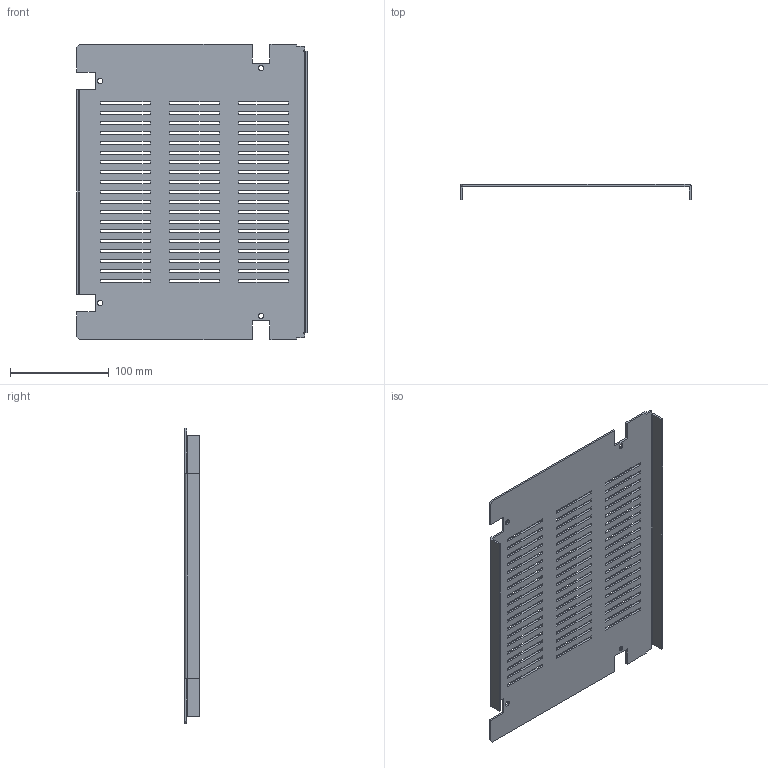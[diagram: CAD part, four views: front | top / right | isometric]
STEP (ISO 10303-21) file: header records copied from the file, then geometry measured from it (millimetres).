
FILE_DESCRIPTION(('CAx-IF Rec.Pracs.---Model Styling and Organization---1.2---2011-12-15','CAx-IF Rec.Pracs.---Geometric and Assembly Validation Properties---4.1---2014-06-16','CAx-IF Rec.Pracs.---PMI Polyline Presentation---2.0---2013-05-24'),'2;1');
FILE_NAME('R5CPFAP431.stp','2021-05-06T03:32:12+03:00',(''),(''),'STEP Interface 4.4 by CT CoreTechnologie','3D_Evolution4.4 by CT CoreTechnologie','');
FILE_SCHEMA(('AUTOMOTIVE_DESIGN { 1 0 10303 214 1 1 1 1 }'));
Length unit declared in the file: millimetre
Products named in the file (2): R5CPFAP431; RB.0543.00.00.0_-00
Assembly tree (1 placements, depth 2):
  R5CPFAP431
    RB.0543.00.00.0_-00
Bounding box: 234 x 15 x 299 mm (x, y, z)
Surface area: 146608.3 mm2 (no closed solid volume)
Topology: 0 solids, 1 shells, 286 faces, 840 edges, 556 vertices
Faces by surface type: plane 274, cylinder 12
Entity records: 9629 total; most frequent: CARTESIAN_POINT 1684, ORIENTED_EDGE 1680, DIRECTION 1440, EDGE_CURVE 840, VECTOR 816, LINE 816, VERTEX_POINT 556, EDGE_LOOP 408
